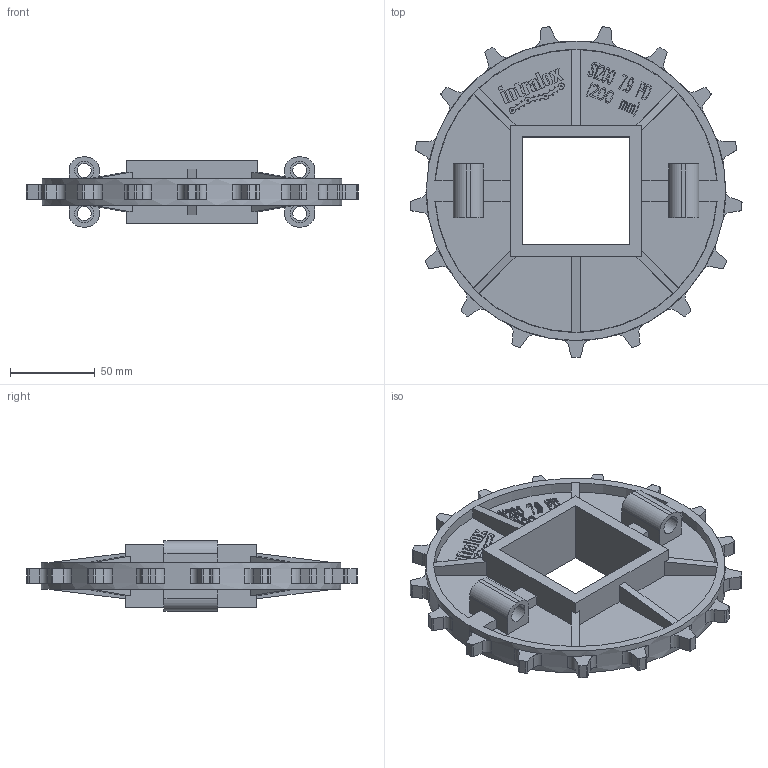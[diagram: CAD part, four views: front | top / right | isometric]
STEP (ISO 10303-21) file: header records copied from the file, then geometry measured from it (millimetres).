
FILE_DESCRIPTION((''),'2;1');
FILE_NAME('S1200_SPLIT_79X25_SQ','2008-12-12T',('jmumphre'),(''),'PRO/ENGINEER BY PARAMETRIC TECHNOLOGY CORPORATION, 2008150','PRO/ENGINEER BY PARAMETRIC TECHNOLOGY CORPORATION, 2008150','');
FILE_SCHEMA(('CONFIG_CONTROL_DESIGN'));
Length unit declared in the file: inch
Products named in the file (1): S1200_SPLIT_79X25_SQ
Bounding box: 195.7 x 194.88 x 41.27 mm (x, y, z)
Volume: 234561.6 mm3; surface area: 98294.4 mm2
Topology: 1 solids, 1 shells, 1068 faces, 3009 edges, 2006 vertices
Faces by surface type: plane 869, cylinder 183, cone 16
Entity records: 34278 total; most frequent: CARTESIAN_POINT 6180, ORIENTED_EDGE 6018, DIRECTION 5545, EDGE_CURVE 3009, VECTOR 2545, LINE 2545, VERTEX_POINT 2006, AXIS2_PLACEMENT_3D 1500
